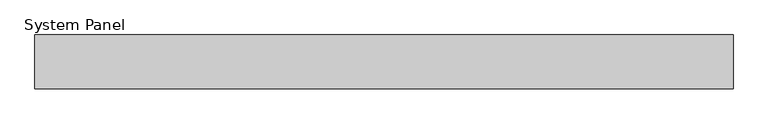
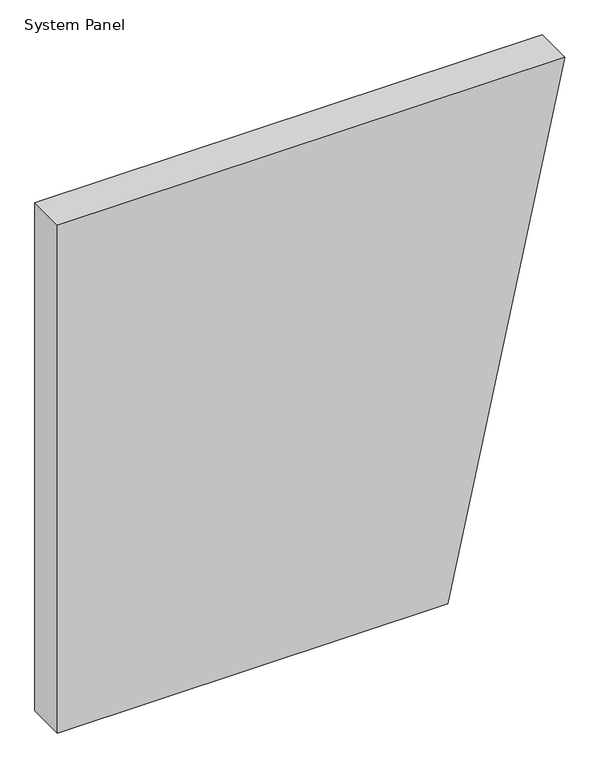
"""IFC4 building model written with IfcOpenShell, lengths in millimetres: plate geometry, System Panel : Inspire 80mm Horizontal - Plain RHEA-PIR."""

from ifc_helpers import new_model, si_unit, frame, origin, place, context, project, spatial, polyline, outline, extrude, source, transform, mapped, element, save


def system_panel_0f5eba97(model_context):
    return source(origin(), model_context, "Body", "SweptSolid", [
        extrude(outline(polyline([(0.0, -519.5661783), (0.0, 280.4338217), (1100.0, 519.5661783), (1100.0, -519.5661783), (0.0, -519.5661783)])), frame((0.0, -80.0, 0.0), z_axis=(0.0, 1.0, 0.0), x_axis=(0.0, 0.0, 1.0)), (0.0, 0.0, 1.0), 80.0),
    ])


if __name__ == "__main__":
    model = new_model("IFC4")
    model_context = context("Model", 3, world=origin())
    ifc_project = project(units=[si_unit("LENGTHUNIT", "METRE", prefix="MILLI")], contexts=[model_context])
    site = spatial("IfcSite", under=ifc_project)
    building = spatial("IfcBuilding", under=site)
    placement = place(None, origin())
    system_panel_shape = system_panel_0f5eba97(model_context)
    element("IfcPlate", 1, ObjectType="System Panel : Inspire 80mm Horizontal - Plain RHEA-PIR", at=placement, inside=building, context=model_context, shape_type="MappedRepresentation", body=[
        mapped(system_panel_shape, transform((0.0, 0.0, 0.0), x_axis=(1.0, 0.0, 0.0), y_axis=(0.0, 1.0, 0.0), z_axis=(0.0, 0.0, 1.0))),
    ])
    save(model, "model.ifc")
